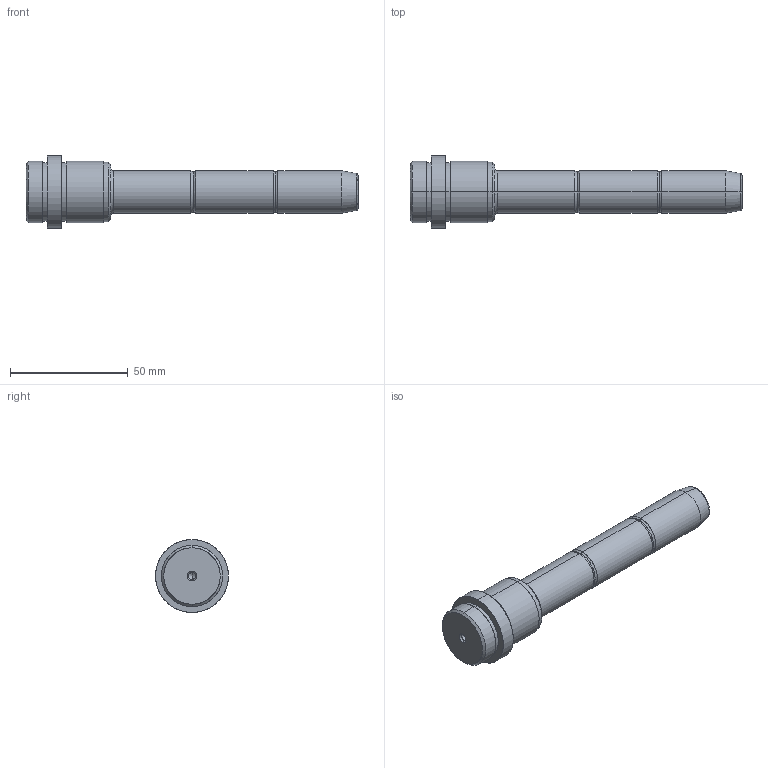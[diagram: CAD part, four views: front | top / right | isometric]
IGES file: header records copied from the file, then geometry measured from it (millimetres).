
Start section: SolidWorks IGES FILE using analytic representation for surfaces
Global section: file name: D:\zzzzz\Delta\D03\18\D03 - 18x27x105.IGS; native system: SolidWorks 2004 by SolidWorks Corporation; preprocessor: Version 5.3; author: Hkn; date: 080327.173138; units: millimetre
Bounding box: 141 x 31 x 31 mm (x, y, z)
Surface area: 10488.5 mm2 (no closed solid volume)
Topology: 0 solids, 0 shells, 56 faces, 768 edges, 764 vertices
Faces by surface type: revolution 36, bspline 20
